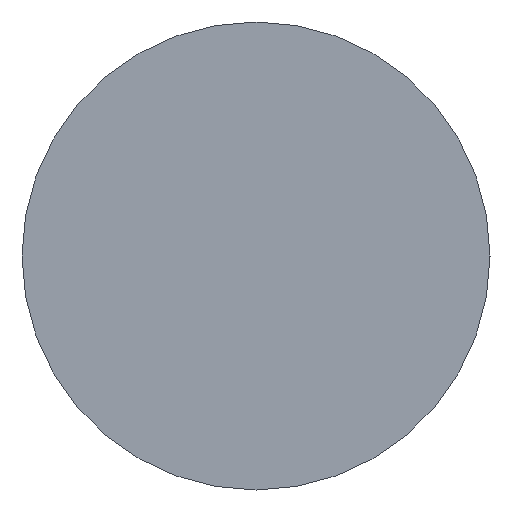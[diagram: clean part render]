
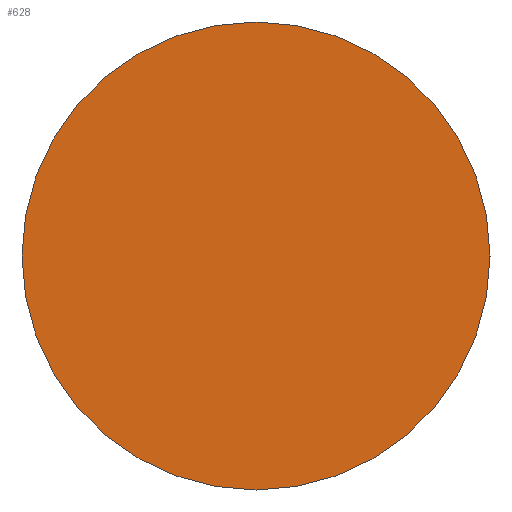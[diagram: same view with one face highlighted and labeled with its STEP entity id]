
A CAD part, left-side view. The second image highlights one B-rep face of the part: STEP entity #628.
In plain terms, the highlighted planar face has unit normal (-1, 0, 0).
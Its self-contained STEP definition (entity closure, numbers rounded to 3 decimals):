
#110=PLANE('',#689);
#114=FACE_OUTER_BOUND('',#149,.T.);
#149=EDGE_LOOP('',(#432,#433));
#189=CIRCLE('',#690,1.27);
#190=CIRCLE('',#691,1.27);
#258=VERTEX_POINT('',#1044);
#259=VERTEX_POINT('',#1045);
#328=EDGE_CURVE('',#258,#259,#189,.T.);
#329=EDGE_CURVE('',#259,#258,#190,.T.);
#432=ORIENTED_EDGE('',*,*,#328,.F.);
#433=ORIENTED_EDGE('',*,*,#329,.F.);
#628=ADVANCED_FACE('',(#114),#110,.T.);
#689=AXIS2_PLACEMENT_3D('',#1043,#804,#805);
#690=AXIS2_PLACEMENT_3D('',#1046,#806,#807);
#691=AXIS2_PLACEMENT_3D('',#1047,#808,#809);
#804=DIRECTION('center_axis',(-1.,0.,0.));
#805=DIRECTION('ref_axis',(0.,0.,1.));
#806=DIRECTION('center_axis',(1.,0.,0.));
#807=DIRECTION('ref_axis',(0.,0.,-1.));
#808=DIRECTION('center_axis',(1.,0.,0.));
#809=DIRECTION('ref_axis',(0.,0.,-1.));
#1043=CARTESIAN_POINT('Origin',(0.,1.27,0.));
#1044=CARTESIAN_POINT('',(0.,1.27,0.));
#1045=CARTESIAN_POINT('',(0.,-1.27,0.));
#1046=CARTESIAN_POINT('Origin',(0.,0.,0.));
#1047=CARTESIAN_POINT('Origin',(0.,0.,0.));
